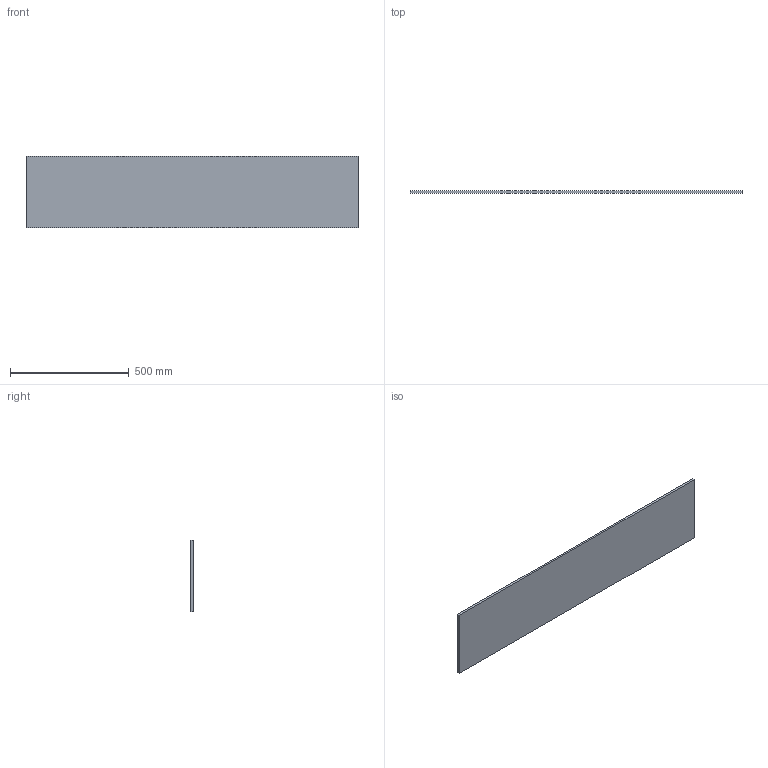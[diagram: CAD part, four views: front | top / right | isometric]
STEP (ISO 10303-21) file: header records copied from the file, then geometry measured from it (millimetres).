
FILE_DESCRIPTION(('Open CASCADE Model'),'2;1');
FILE_NAME('Open CASCADE Shape Model','2026-09-19T12:55:23',('Author'),( 'Open CASCADE'),'Open CASCADE STEP processor 7.9','Open CASCADE 7.9' ,'Unknown');
FILE_SCHEMA(('AUTOMOTIVE_DESIGN { 1 0 10303 214 1 1 1 1 }'));
Length unit declared in the file: millimetre
Products named in the file (1): Open CASCADE STEP translator 7.9 411
Bounding box: 1400 x 10 x 300 mm (x, y, z)
Volume: 4200000 mm3; surface area: 874000 mm2
Topology: 1 solids, 1 shells, 6 faces, 12 edges, 8 vertices
Faces by surface type: plane 6
Entity records: 322 total; most frequent: CARTESIAN_POINT 51, DIRECTION 50, LINE 36, VECTOR 36, ORIENTED_EDGE 24, PCURVE 24, DEFINITIONAL_REPRESENTATION 24, EDGE_CURVE 12
